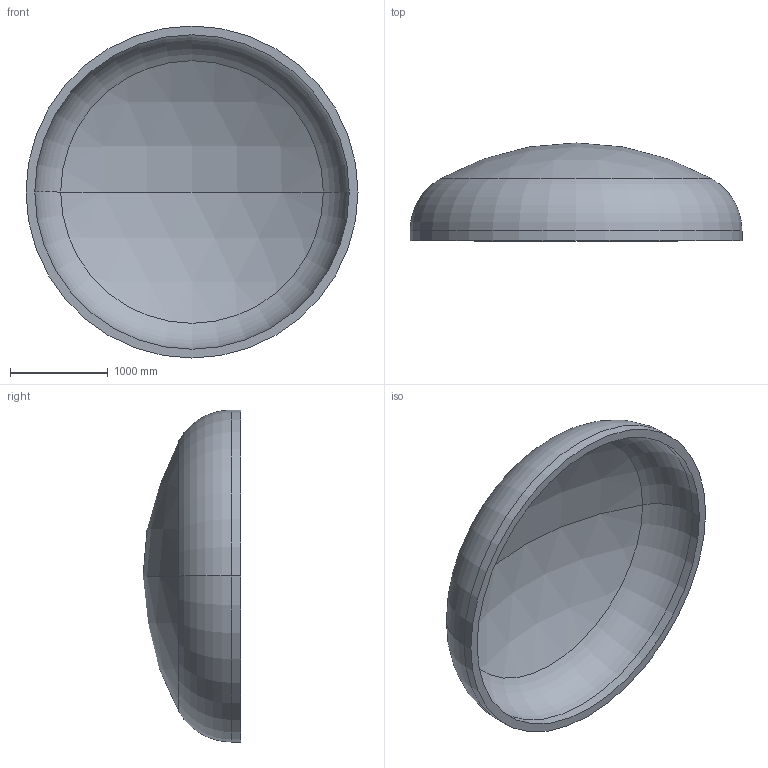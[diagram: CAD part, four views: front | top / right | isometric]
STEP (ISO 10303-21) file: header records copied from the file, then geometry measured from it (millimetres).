
FILE_DESCRIPTION (( 'STEP AP203' ), '1' );
FILE_NAME ('DIN 28013 Korbbogenform_-_Boden DIN 28013 - 3400 x 100 - I - s=90.step', '2016-07-01T19:49:10', ( '' ), ( '' ), 'SwSTEP 2.0', 'SolidWorks 2013', '' );
FILE_SCHEMA (( 'CONFIG_CONTROL_DESIGN' ));
Length unit declared in the file: millimetre
Products named in the file (1): DIN 28013 Korbbogenform_-_Boden DIN 28013 - 3400 x 100 - I - s=90
Bounding box: 3400 x 1001.91 x 3400 mm (x, y, z)
Volume: 1187309351.7 mm3; surface area: 27337488.4 mm2
Topology: 1 solids, 1 shells, 13 faces, 24 edges, 14 vertices
Faces by surface type: torus 4, cylinder 4, sphere 4, plane 1
Entity records: 407 total; most frequent: DIRECTION 72, CARTESIAN_POINT 52, ORIENTED_EDGE 48, AXIS2_PLACEMENT_3D 34, EDGE_CURVE 24, CIRCLE 20, VERTEX_POINT 14, EDGE_LOOP 14
